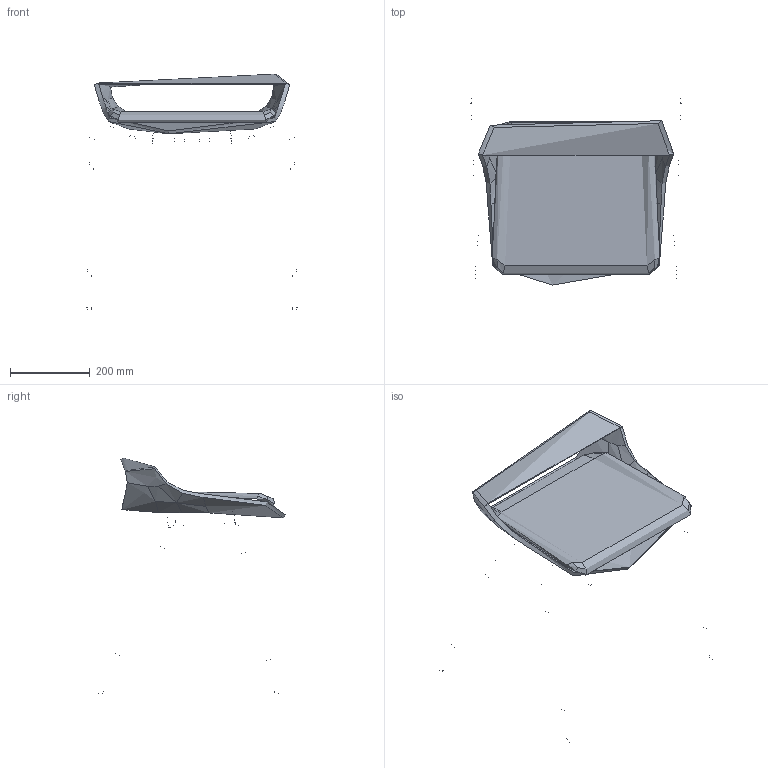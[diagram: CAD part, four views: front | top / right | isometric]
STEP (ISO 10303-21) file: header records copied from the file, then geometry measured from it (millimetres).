
FILE_DESCRIPTION(/* description */ (''),/* implementation_level */ '2;1');
FILE_NAME(/* name */ 'Lotus konf sed',/* time_stamp */ '2024-02-28T20:20:49+01:00',/* author */ (''),/* organization */ (''),/* preprocessor_version */ 'ST-DEVELOPER v16.5',/* originating_system */ 'Rhino 7.35',/* authorisation */ '');
FILE_SCHEMA (('CONFIG_CONTROL_DESIGN'));
Length unit declared in the file: millimetre
Products named in the file (1): Document
Bounding box: 530.54 x 467.92 x 591.15 mm (x, y, z)
Volume: 3540760.7 mm3; surface area: 1046237.8 mm2
Topology: 2 solids, 25 shells, 125 faces, 303 edges, 190 vertices
Faces by surface type: bspline 83, cylinder 42
Full cylindrical faces by diameter (mm): 14 x12, 16 x4, 18 x18
Entity records: 17523 total; most frequent: CARTESIAN_POINT 15595, ORIENTED_EDGE 548, EDGE_CURVE 292, VERTEX_POINT 188, B_SPLINE_CURVE_WITH_KNOTS 183, ADVANCED_FACE 125, FACE_OUTER_BOUND 125, EDGE_LOOP 125
